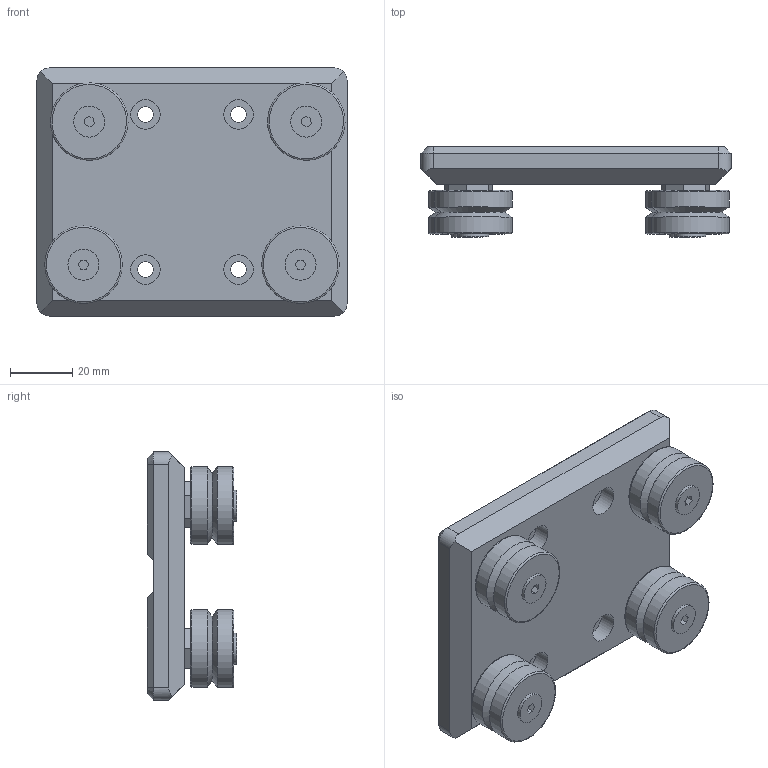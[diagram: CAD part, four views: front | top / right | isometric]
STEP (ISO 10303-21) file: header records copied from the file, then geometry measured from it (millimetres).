
FILE_DESCRIPTION(('STEP AP203'),'1');
FILE_NAME('//192.168.1.1/share/s-4 技術開発/s-4-4_CAD/s-4-4-3_見直し済み/RG 修正済み/RG_TOP/キャリッジプレート/RG-100(GS-25N).step','2022-03-28T02:03:22',(' '),(' '),'Spatial InterOp 3D',' ',' ');
FILE_SCHEMA(('CONFIG_CONTROL_DESIGN'));
Length unit declared in the file: millimetre
Products named in the file (13): 1; 2; 3; 4; 5; 6; 7; 8; 9; 10; 11; 12; 13
Bounding box: 100 x 29 x 80 mm (x, y, z)
Volume: 105948.5 mm3; surface area: 36703 mm2
Topology: 13 solids, 13 shells, 274 faces, 598 edges, 372 vertices
Faces by surface type: plane 150, cone 60, cylinder 52, torus 8, sphere 4
Full cylindrical faces by diameter (mm): 5 x4, 6.75 x4, 8 x12, 8.5 x4, 9.5 x4, 10 x4, 18 x4, 22 x4, 25 x8
Entity records: 7942 total; most frequent: CARTESIAN_POINT 1709, DIRECTION 1176, ORIENTED_EDGE 1036, EDGE_CURVE 518, AXIS2_PLACEMENT_3D 467, EDGE_LOOP 396, VERTEX_POINT 360, FACE_OUTER_BOUND 332
